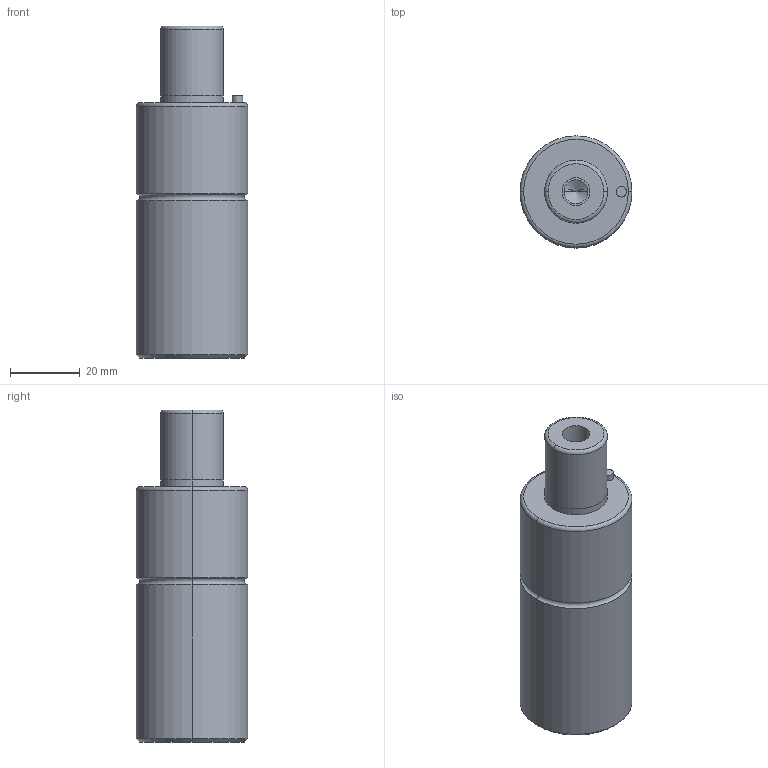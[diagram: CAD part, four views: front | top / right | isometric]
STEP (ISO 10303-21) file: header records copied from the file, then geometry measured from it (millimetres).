
FILE_DESCRIPTION(/* description */ (''),/* implementation_level */ '2;1');
FILE_NAME(/* name */ '3d_gsm32-20_03900_r00.stp',/* time_stamp */ '2011-01-10T14:15:16+09:00',/* author */ ('MISUMI'),/* organization */ (''),/* preprocessor_version */ 'ST-DEVELOPER v11',/* originating_system */ 'UGS - NX 5.0',/* authorisation */ '');
FILE_SCHEMA (('CONFIG_CONTROL_DESIGN'));
Length unit declared in the file: millimetre
Products named in the file (1): 3d_gsm32-20_03900_r00
Bounding box: 32 x 32 x 95 mm (x, y, z)
Volume: 62679.2 mm3; surface area: 11048.8 mm2
Topology: 1 solids, 1 shells, 50 faces, 106 edges, 60 vertices
Faces by surface type: cylinder 26, cone 10, plane 8, torus 6
Entity records: 1382 total; most frequent: DIRECTION 262, CARTESIAN_POINT 209, ORIENTED_EDGE 196, AXIS2_PLACEMENT_3D 113, EDGE_CURVE 98, CIRCLE 62, EDGE_LOOP 60, VERTEX_POINT 60
